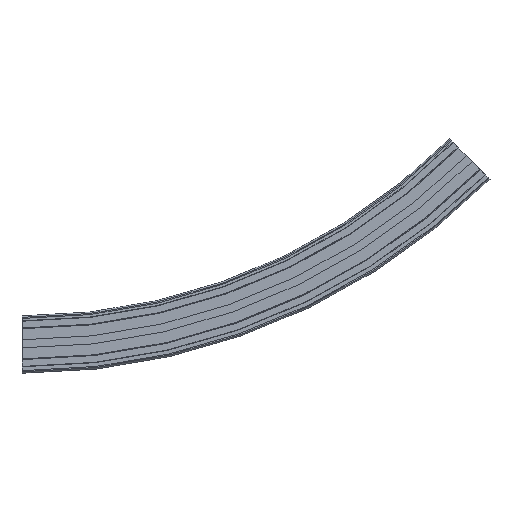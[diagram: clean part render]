
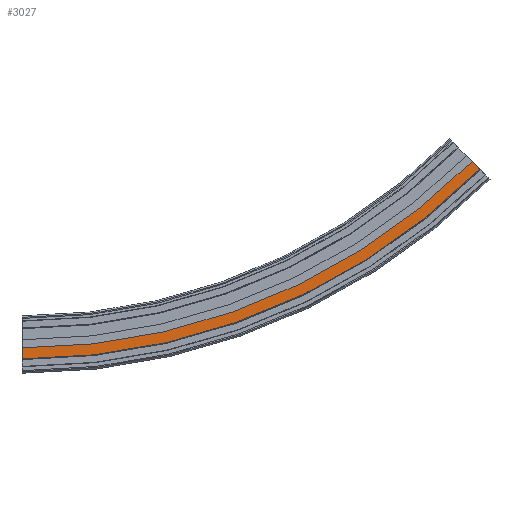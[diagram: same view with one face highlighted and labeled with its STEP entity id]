
A CAD part, front view. The second image highlights one B-rep face of the part: STEP entity #3027.
In plain terms, the highlighted planar face has unit normal (0, -1, 0).
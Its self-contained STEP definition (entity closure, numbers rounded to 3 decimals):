
#2969=CARTESIAN_POINT('',(622.608,-32.,199.392));
#2970=VERTEX_POINT('',#2969);
#2977=CARTESIAN_POINT('',(0.0,-32.,-58.5));
#2978=VERTEX_POINT('',#2977);
#2979=CARTESIAN_POINT('',(0.,-32.,822.0));
#2980=DIRECTION('',(0.0,-1.0,0.0));
#2981=DIRECTION('',(-0.707,0.0,0.707));
#2982=AXIS2_PLACEMENT_3D('',#2979,#2980,#2981);
#2983=CIRCLE('',#2982,880.5);
#2984=EDGE_CURVE('',#2978,#2970,#2983,.T.);
#2996=CARTESIAN_POINT('',(0.0,-32.,-51.));
#2997=DIRECTION('',(0.0,-1.0,0.0));
#2998=DIRECTION('',(0.0,0.0,-1.0));
#2999=AXIS2_PLACEMENT_3D('',#2996,#2997,#2998);
#3000=PLANE('',#2999);
#3001=CARTESIAN_POINT('',(612.001,-32.,209.999));
#3002=VERTEX_POINT('',#3001);
#3003=CARTESIAN_POINT('',(622.608,-32.,199.392));
#3004=DIRECTION('',(-0.707,0.,0.707));
#3005=VECTOR('',#3004,15.);
#3006=LINE('',#3003,#3005);
#3007=EDGE_CURVE('',#2970,#3002,#3006,.T.);
#3008=ORIENTED_EDGE('',*,*,#3007,.T.);
#3009=CARTESIAN_POINT('',(0.0,-32.,-43.5));
#3010=VERTEX_POINT('',#3009);
#3011=CARTESIAN_POINT('',(0.,-32.,822.0));
#3012=DIRECTION('',(0.0,-1.0,0.0));
#3013=DIRECTION('',(-0.707,0.0,0.707));
#3014=AXIS2_PLACEMENT_3D('',#3011,#3012,#3013);
#3015=CIRCLE('',#3014,865.5);
#3016=EDGE_CURVE('',#3010,#3002,#3015,.T.);
#3017=ORIENTED_EDGE('',*,*,#3016,.F.);
#3018=CARTESIAN_POINT('',(0.0,-32.,-43.5));
#3019=DIRECTION('',(0.0,0.0,-1.0));
#3020=VECTOR('',#3019,15.);
#3021=LINE('',#3018,#3020);
#3022=EDGE_CURVE('',#3010,#2978,#3021,.T.);
#3023=ORIENTED_EDGE('',*,*,#3022,.T.);
#3024=ORIENTED_EDGE('',*,*,#2984,.T.);
#3025=EDGE_LOOP('',(#3008,#3017,#3023,#3024));
#3026=FACE_OUTER_BOUND('',#3025,.T.);
#3027=ADVANCED_FACE('',(#3026),#3000,.T.);
